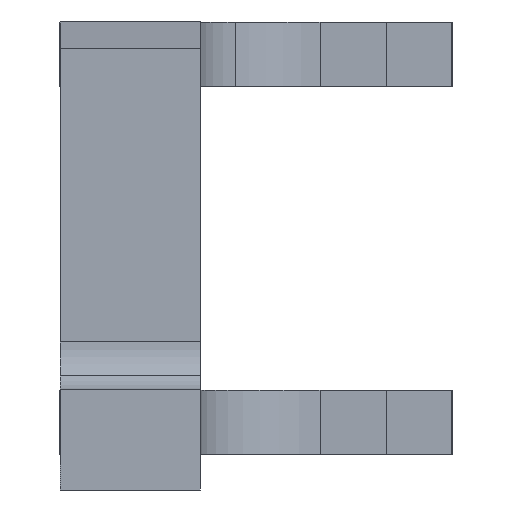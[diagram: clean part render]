
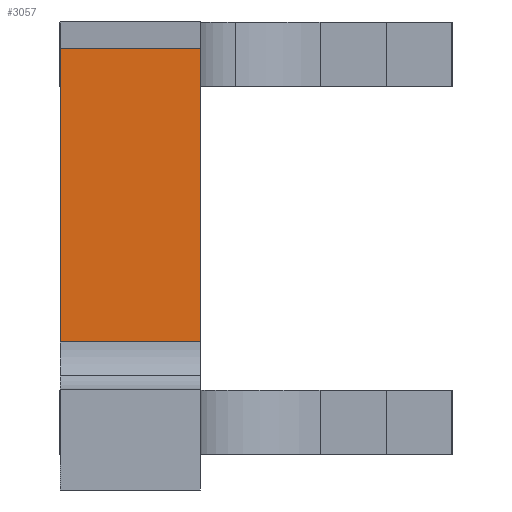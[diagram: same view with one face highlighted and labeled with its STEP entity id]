
A CAD part, left-side view. The second image highlights one B-rep face of the part: STEP entity #3057.
In plain terms, the highlighted planar face has unit normal (-1, 0, 0).
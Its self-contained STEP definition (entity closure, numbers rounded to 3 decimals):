
#2450=CARTESIAN_POINT('',(-132.393,-4.261,12.));
#2451=VERTEX_POINT('',#2450);
#2459=CARTESIAN_POINT('',(-132.393,30.739,12.));
#2460=VERTEX_POINT('',#2459);
#2461=CARTESIAN_POINT('',(-132.393,-4.261,12.));
#2462=DIRECTION('',(0.0,1.0,0.0));
#2463=VECTOR('',#2462,35.);
#2464=LINE('',#2461,#2463);
#2465=EDGE_CURVE('',#2451,#2460,#2464,.T.);
#2960=CARTESIAN_POINT('',(-132.393,30.739,85.301));
#2961=VERTEX_POINT('',#2960);
#2962=CARTESIAN_POINT('',(-132.393,30.739,12.));
#2963=DIRECTION('',(0.0,0.0,1.0));
#2964=VECTOR('',#2963,73.301);
#2965=LINE('',#2962,#2964);
#2966=EDGE_CURVE('',#2460,#2961,#2965,.T.);
#3034=CARTESIAN_POINT('',(-132.393,30.739,92.));
#3035=DIRECTION('',(1.0,0.0,0.0));
#3036=DIRECTION('',(0.0,0.0,-1.0));
#3037=AXIS2_PLACEMENT_3D('',#3034,#3035,#3036);
#3038=PLANE('',#3037);
#3039=CARTESIAN_POINT('',(-132.393,-4.261,85.301));
#3040=VERTEX_POINT('',#3039);
#3041=CARTESIAN_POINT('',(-132.393,-4.261,85.301));
#3042=DIRECTION('',(0.0,0.0,-1.0));
#3043=VECTOR('',#3042,73.301);
#3044=LINE('',#3041,#3043);
#3045=EDGE_CURVE('',#3040,#2451,#3044,.T.);
#3046=ORIENTED_EDGE('',*,*,#3045,.F.);
#3047=CARTESIAN_POINT('',(-132.393,-4.261,85.301));
#3048=DIRECTION('',(0.0,1.0,0.0));
#3049=VECTOR('',#3048,35.);
#3050=LINE('',#3047,#3049);
#3051=EDGE_CURVE('',#3040,#2961,#3050,.T.);
#3052=ORIENTED_EDGE('',*,*,#3051,.T.);
#3053=ORIENTED_EDGE('',*,*,#2966,.F.);
#3054=ORIENTED_EDGE('',*,*,#2465,.F.);
#3055=EDGE_LOOP('',(#3046,#3052,#3053,#3054));
#3056=FACE_OUTER_BOUND('',#3055,.T.);
#3057=ADVANCED_FACE('',(#3056),#3038,.F.);
